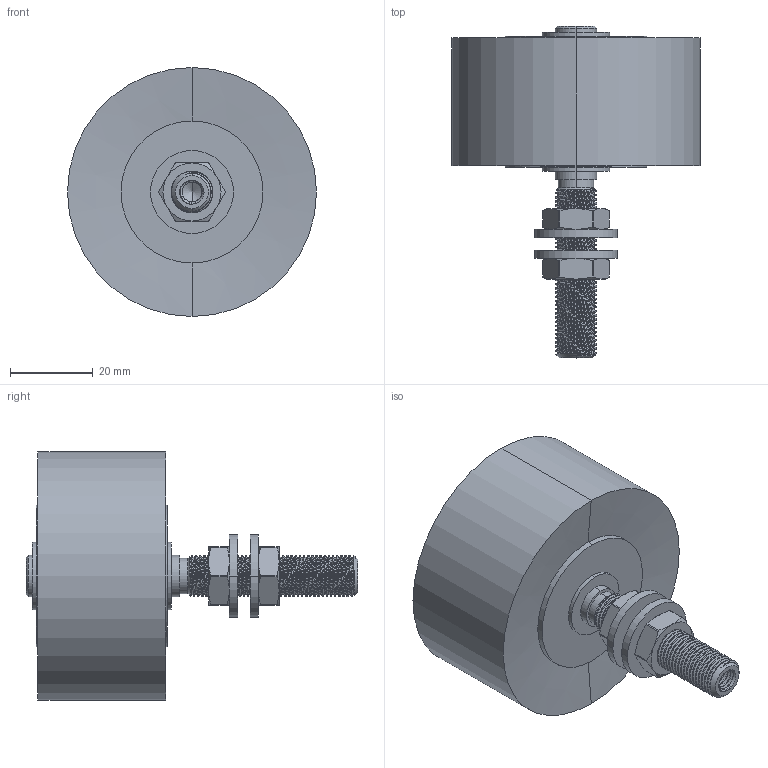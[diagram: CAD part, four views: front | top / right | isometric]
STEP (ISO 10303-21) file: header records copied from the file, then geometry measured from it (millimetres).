
FILE_DESCRIPTION(('FreeCAD Model'),'2;1');
FILE_NAME('F:/Doku/012_Schmierpinsel/Rollenpinsel/STEP-Daten/012_60_30_01_dmu_01.stp','2020-12-01T14:33:29',('Abt. Konstruktion'),( 'STW - Kim Friedrich GmbH'),'Open CASCADE STEP processor 7.2', 'FreeCAD','Unknown');
FILE_SCHEMA(('CONFIG_CONTROL_DESIGN','SHAPE_APPEARANCE_LAYER_MIM'));
Length unit declared in the file: millimetre
Products named in the file (4): _12_60_30_01_DMU; 012_60_30_01_DMU; 012_60_MUTTER-M10X002; SCHEIBE_M011
Assembly tree (5 placements, depth 2):
  _12_60_30_01_DMU
    012_60_30_01_DMU
    012_60_MUTTER-M10X002  x2
    SCHEIBE_M011  x2
Bounding box: 60 x 80 x 60 mm (x, y, z)
Volume: 90158.5 mm3; surface area: 17462.8 mm2
Topology: 5 solids, 5 shells, 1080 faces, 2981 edges, 1961 vertices
Faces by surface type: plane 859, cylinder 134, cone 45, bspline 42
Entity records: 114795 total; most frequent: CARTESIAN_POINT 57973, DIRECTION 9920, LINE 7700, VECTOR 7700, ORIENTED_EDGE 5770, PCURVE 5770, DEFINITIONAL_REPRESENTATION 5770, EDGE_CURVE 2885
